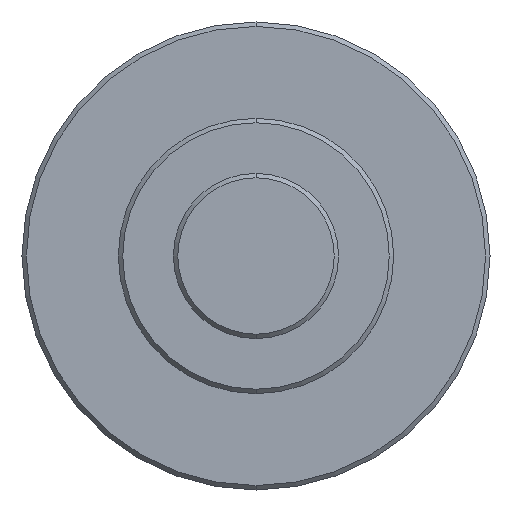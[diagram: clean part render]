
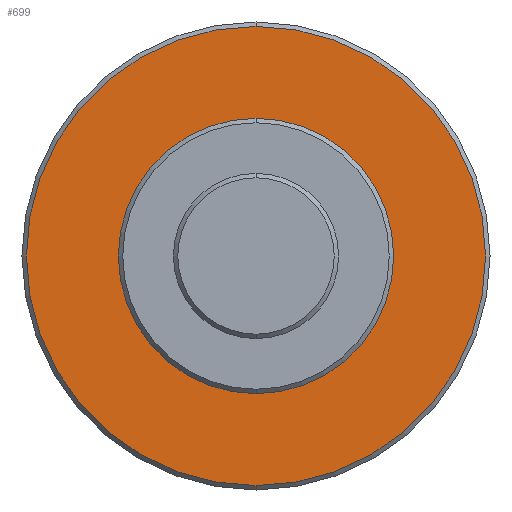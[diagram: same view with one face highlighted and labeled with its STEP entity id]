
A CAD part, front view. The second image highlights one B-rep face of the part: STEP entity #699.
In plain terms, the highlighted planar face has unit normal (0, -1, 0).
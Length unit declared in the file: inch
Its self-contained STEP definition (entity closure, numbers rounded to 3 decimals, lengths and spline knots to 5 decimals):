
#31 = AXIS2_PLACEMENT_3D ( 'NONE', #515, #543, #509 ) ;
#64 = AXIS2_PLACEMENT_3D ( 'NONE', #499, #505, #506 ) ;
#75 = EDGE_CURVE ( 'NONE', #116, #118, #918, .T. ) ;
#85 = AXIS2_PLACEMENT_3D ( 'NONE', #215, #186, #231 ) ;
#116 = VERTEX_POINT ( 'NONE', #258 ) ;
#118 = VERTEX_POINT ( 'NONE', #285 ) ;
#127 = VERTEX_POINT ( 'NONE', #243 ) ;
#145 = VERTEX_POINT ( 'NONE', #262 ) ;
#186 = DIRECTION ( 'NONE',  ( 0., -1., 0. ) ) ;
#215 = CARTESIAN_POINT ( 'NONE',  ( 0., 0., 0. ) ) ;
#231 = DIRECTION ( 'NONE',  ( 0., 0., 1. ) ) ;
#243 = CARTESIAN_POINT ( 'NONE',  ( 0., 0., 0.625 ) ) ;
#258 = CARTESIAN_POINT ( 'NONE',  ( 0., 0., 1.0425 ) ) ;
#262 = CARTESIAN_POINT ( 'NONE',  ( 0., 0., -0.625 ) ) ;
#285 = CARTESIAN_POINT ( 'NONE',  ( 0., 0., -1.0425 ) ) ;
#352 = DIRECTION ( 'NONE',  ( 0., 0., 1. ) ) ;
#361 = CARTESIAN_POINT ( 'NONE',  ( 0., 0., 0. ) ) ;
#367 = DIRECTION ( 'NONE',  ( 0., -1., 0. ) ) ;
#401 = DIRECTION ( 'NONE',  ( 0., 0., 1. ) ) ;
#413 = DIRECTION ( 'NONE',  ( 0., -1., 0. ) ) ;
#419 = CARTESIAN_POINT ( 'NONE',  ( 0., 0., 0. ) ) ;
#499 = CARTESIAN_POINT ( 'NONE',  ( 0., 0., 0. ) ) ;
#503 = PLANE ( 'NONE',  #64 ) ;
#505 = DIRECTION ( 'NONE',  ( 0., 1., 0. ) ) ;
#506 = DIRECTION ( 'NONE',  ( 0., 0., 1. ) ) ;
#509 = DIRECTION ( 'NONE',  ( 0., 0., 1. ) ) ;
#515 = CARTESIAN_POINT ( 'NONE',  ( 0., 0., 0. ) ) ;
#543 = DIRECTION ( 'NONE',  ( 0., -1., 0. ) ) ;
#623 = EDGE_CURVE ( 'NONE', #118, #116, #955, .T. ) ;
#640 = EDGE_CURVE ( 'NONE', #145, #127, #991, .T. ) ;
#664 = EDGE_CURVE ( 'NONE', #127, #145, #727, .T. ) ;
#699 = ADVANCED_FACE ( 'NONE', ( #752, #763 ), #503, .F. ) ;
#727 = CIRCLE ( 'NONE', #31, 0.625 ) ;
#752 = FACE_OUTER_BOUND ( 'NONE', #864, .T. ) ;
#763 = FACE_BOUND ( 'NONE', #852, .T. ) ;
#798 = ORIENTED_EDGE ( 'NONE', *, *, #640, .F. ) ;
#818 = ORIENTED_EDGE ( 'NONE', *, *, #75, .T. ) ;
#852 = EDGE_LOOP ( 'NONE', ( #863, #798 ) ) ;
#863 = ORIENTED_EDGE ( 'NONE', *, *, #664, .F. ) ;
#864 = EDGE_LOOP ( 'NONE', ( #818, #883 ) ) ;
#883 = ORIENTED_EDGE ( 'NONE', *, *, #623, .T. ) ;
#918 = CIRCLE ( 'NONE', #85, 1.0425 ) ;
#955 = CIRCLE ( 'NONE', #1009, 1.0425 ) ;
#991 = CIRCLE ( 'NONE', #1021, 0.625 ) ;
#1009 = AXIS2_PLACEMENT_3D ( 'NONE', #361, #367, #352 ) ;
#1021 = AXIS2_PLACEMENT_3D ( 'NONE', #419, #413, #401 ) ;
